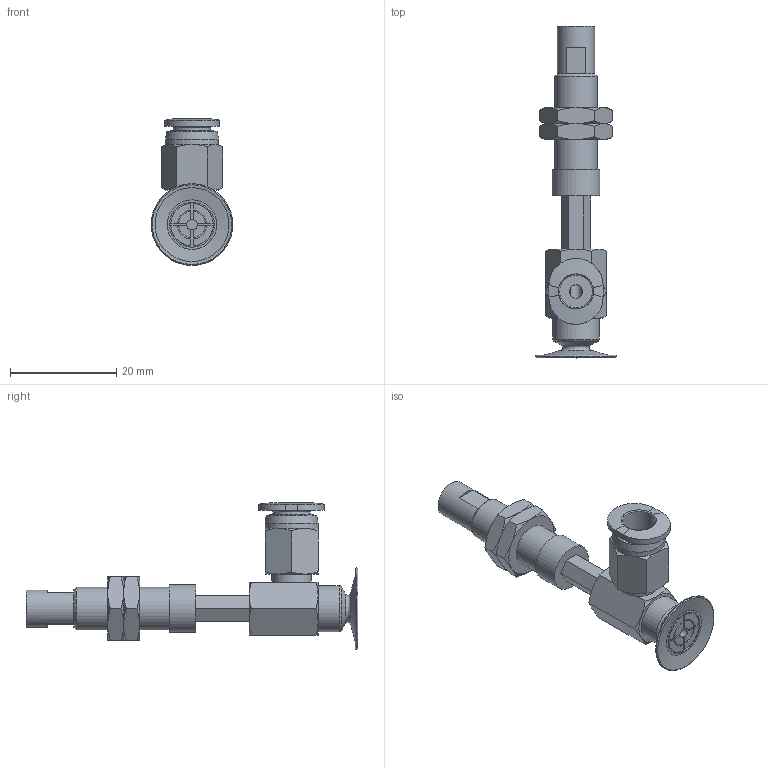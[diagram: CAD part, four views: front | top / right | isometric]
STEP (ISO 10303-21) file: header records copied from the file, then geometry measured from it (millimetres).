
FILE_DESCRIPTION(('STEP AP203'),'1');
FILE_NAME('-O.stp','2025-03-13T03:11:29',(' '),(' '),'Spatial InterOp 3D',' ',' ');
FILE_SCHEMA(('CONFIG_CONTROL_DESIGN'));
Length unit declared in the file: millimetre
Products named in the file (7): BNABPAYH-15B-10-※-O; NAPATH-10A-10--M; NAPATH-10A-10--F; Nut-10A-S; CONNECTOR-10A-10-PA; PC-C_06-M5; BPAG-15B-※
Assembly tree (7 placements, depth 2):
  BNABPAYH-15B-10-※-O
    NAPATH-10A-10--M
    NAPATH-10A-10--F
    Nut-10A-S  x2
    CONNECTOR-10A-10-PA
    PC-C_06-M5
    BPAG-15B-※
Bounding box: 15.4 x 62.5 x 27.68 mm (x, y, z)
Volume: 4330.9 mm3; surface area: 5579.8 mm2
Topology: 7 solids, 7 shells, 232 faces, 511 edges, 311 vertices
Faces by surface type: plane 100, cone 76, cylinder 37, torus 12, bspline 4, revolution 3
Full cylindrical faces by diameter (mm): 2 x2, 4 x4, 4.134 x2, 5 x2, 6 x2, 7 x2, 7.188 x2, 7.4 x1, 8 x1, 8.2 x1, 8.5 x1, 8.7 x1, 9 x1, 10 x1
Entity records: 6228 total; most frequent: CARTESIAN_POINT 1673, DIRECTION 861, ORIENTED_EDGE 796, EDGE_CURVE 398, AXIS2_PLACEMENT_3D 354, EDGE_LOOP 288, VERTEX_POINT 270, FACE_OUTER_BOUND 243
